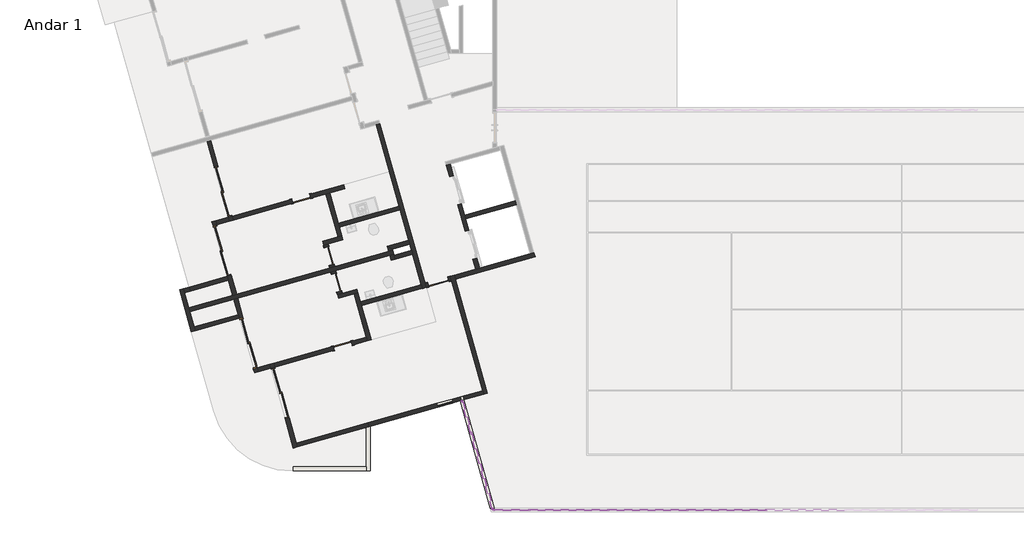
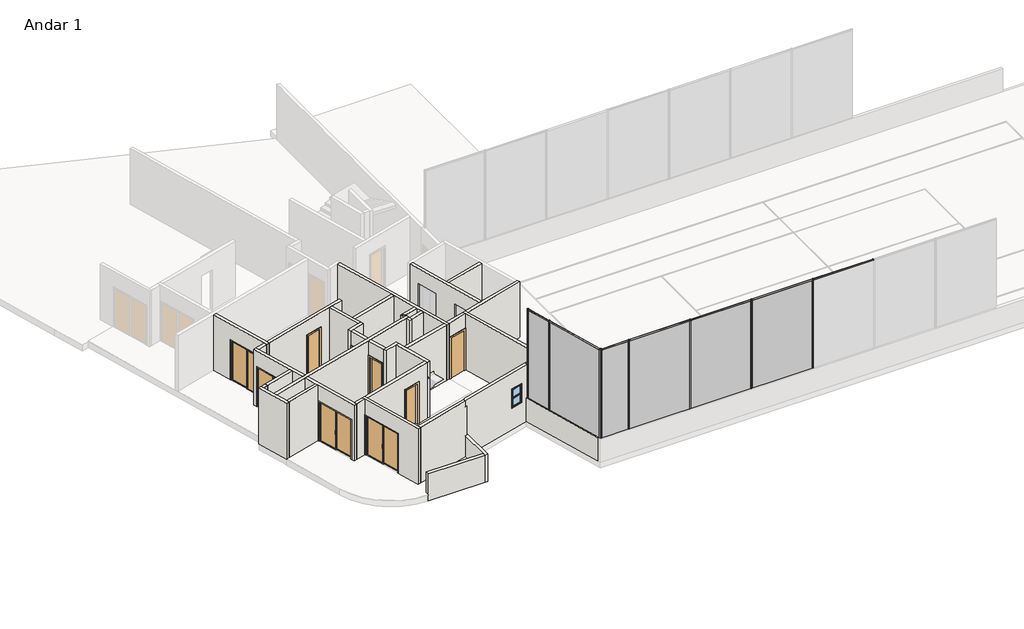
# One storey, part 1 of 4: 37 walls, 15 members, 9 doors, 6 plates, 1 window.
"""IFC4 building model written with IfcOpenShell, lengths in millimetres."""

from ifc_helpers import new_model, si_unit, frame, origin, place, context, project, spatial, polyline, outline, extrude, faceted_brep, transform, mapped, element, save
from components import p2_80cm_9d4be4ef, p3_70cm_ef4d15e3, p3_70cm_0a698c7c, p4_correr_200cm_eaaa0877, p4_correr_200cm_830b8f20, montante_retangular_montante_circular_5ff1fdcf, montante_retangular_montante_circular_86a469dc, montante_retangular_montante_circular_1c767b1c, montante_retangular_montante_circular_b6c632e5, montante_retangular_montante_circular_5da571e1, painel_do_sistema_4e286993, painel_do_sistema_2d010810, painel_do_sistema_5f9e151d, bx_60cm_cef95a5c

model = new_model("IFC4")

# Units and contexts
model_context = context("Model", 3, world=origin())
ifc_project = project(units=[si_unit("LENGTHUNIT", "METRE", prefix="MILLI")], contexts=[model_context])

# Site, building, storey
site = spatial("IfcSite", under=ifc_project)
building = spatial("IfcBuilding", under=site)
storey = spatial("IfcBuildingStorey", under=building, Name="Andar 1", Elevation=53650.0)

# Doors
placement = place(None, origin())
p2_80cm_shape = p2_80cm_9d4be4ef(model_context)
element("IfcDoor", 1, ObjectType="M_Folha única1 : P2 - 80CM", at=placement, inside=storey, context=model_context, shape_type="MappedRepresentation", body=[
    mapped(p2_80cm_shape, transform((-77213.6668366, 12144.847648, 53650.0), x_axis=(0.9623628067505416, 0.2717679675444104, 0.0), y_axis=(-0.2717679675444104, 0.9623628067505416, 0.0), z_axis=(0.0, 0.0, 1.0))),
])
p3_70cm_shape = p3_70cm_ef4d15e3(model_context)
element("IfcDoor", 2, ObjectType="M_Folha única1 : P3 - 70CM", at=placement, inside=storey, context=model_context, shape_type="MappedRepresentation", body=[
    mapped(p3_70cm_shape, transform((-80840.7851368, 9718.5269225, 53650.0), x_axis=(0.9623628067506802, 0.2717679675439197, 0.0), y_axis=(-0.2717679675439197, 0.9623628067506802, 0.0), z_axis=(0.0, 0.0, 1.0))),
])
element("IfcDoor", 3, ObjectType="M_Folha única1 : P3 - 70CM", at=placement, inside=storey, context=model_context, shape_type="MappedRepresentation", body=[
    mapped(p3_70cm_shape, transform((-81362.5862327, 13130.1209218, 53650.0), x_axis=(0.271767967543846, -0.9623628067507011, 0.0), y_axis=(0.9623628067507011, 0.271767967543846, 0.0), z_axis=(0.0, 0.0, 1.0))),
])
p3_70cm_2_shape = p3_70cm_0a698c7c(model_context)
element("IfcDoor", 4, ObjectType="M_Folha única1 : P3 - 70CM", at=placement, inside=storey, context=model_context, shape_type="MappedRepresentation", body=[
    mapped(p3_70cm_2_shape, transform((-81077.2298668, 12119.6399747, 53650.0), x_axis=(-0.27176796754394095, 0.9623628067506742, 0.0), y_axis=(-0.9623628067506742, -0.27176796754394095, 0.0), z_axis=(0.0, 0.0, 1.0))),
])
element("IfcDoor", 5, ObjectType="M_Folha única1 : P3 - 70CM", at=placement, inside=storey, context=model_context, shape_type="MappedRepresentation", body=[
    mapped(p3_70cm_2_shape, transform((-82417.0393485, 15300.2312016, 53650.0), x_axis=(0.9623628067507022, 0.27176796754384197, 0.0), y_axis=(-0.27176796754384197, 0.9623628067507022, 0.0), z_axis=(0.0, 0.0, 1.0))),
])
p4_correr_200cm_shape = p4_correr_200cm_eaaa0877(model_context)
element("IfcDoor", 6, ObjectType="Porta de correr dupla envidraçada sem revestimento : P4 - CORRER - 200CM", at=placement, inside=storey, context=model_context, shape_type="MappedRepresentation", body=[
    mapped(p4_correr_200cm_shape, transform((-84429.028315, 9822.2616509, 53650.0), x_axis=(-0.27176796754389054, 0.9623628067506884, 0.0), y_axis=(-0.9623628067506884, -0.27176796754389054, 0.0), z_axis=(0.0, 0.0, 1.0))),
])
element("IfcDoor", 7, ObjectType="Porta de correr dupla envidraçada sem revestimento : P4 - CORRER - 200CM", at=placement, inside=storey, context=model_context, shape_type="MappedRepresentation", body=[
    mapped(p4_correr_200cm_shape, transform((-83223.012588, 7928.7516937, 53650.0), x_axis=(-0.2717679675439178, 0.9623628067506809, 0.0), y_axis=(-0.9623628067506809, -0.2717679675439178, 0.0), z_axis=(0.0, 0.0, 1.0))),
])
p4_correr_200cm_2_shape = p4_correr_200cm_830b8f20(model_context)
element("IfcDoor", 8, ObjectType="Porta de correr dupla envidraçada sem revestimento : P4 - CORRER - 200CM", at=placement, inside=storey, context=model_context, shape_type="MappedRepresentation", body=[
    mapped(p4_correr_200cm_2_shape, transform((-85383.5679299, 15579.5360073, 53650.0), x_axis=(-0.2717679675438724, 0.9623628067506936, 0.0), y_axis=(-0.9623628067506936, -0.2717679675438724, 0.0), z_axis=(0.0, 0.0, 1.0))),
])
element("IfcDoor", 9, ObjectType="Porta de correr dupla envidraçada sem revestimento : P4 - CORRER - 200CM", at=placement, inside=storey, context=model_context, shape_type="MappedRepresentation", body=[
    mapped(p4_correr_200cm_2_shape, transform((-85420.9813965, 13334.8858955, 53650.0), x_axis=(-0.27176796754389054, 0.9623628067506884, 0.0), y_axis=(-0.9623628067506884, -0.27176796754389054, 0.0), z_axis=(0.0, 0.0, 1.0))),
])

# Members
montante_retangular_montante_circular_shape = montante_retangular_montante_circular_5ff1fdcf(model_context)
element("IfcMember", 10, ObjectType="Montante retangular : Montante Circular", at=placement, inside=storey, context=model_context, shape_type="MappedRepresentation", body=[
    mapped(montante_retangular_montante_circular_shape, transform((-64731.6124052, 3486.0495751, 59450.0), x_axis=(0.0, 0.0, 1.0), y_axis=(0.0, 1.0, 0.0), z_axis=(-1.0, 0.0, 0.0))),
])
element("IfcMember", 11, ObjectType="Montante retangular : Montante Circular", at=placement, inside=storey, context=model_context, shape_type="MappedRepresentation", body=[
    mapped(montante_retangular_montante_circular_shape, transform((-67731.6124052, 3486.0495751, 59450.0), x_axis=(0.0, 0.0, 1.0), y_axis=(0.0, 1.0, 0.0), z_axis=(-1.0, 0.0, 0.0))),
])
element("IfcMember", 12, ObjectType="Montante retangular : Montante Circular", at=placement, inside=storey, context=model_context, shape_type="MappedRepresentation", body=[
    mapped(montante_retangular_montante_circular_shape, transform((-70731.6124052, 3486.0495751, 59450.0), x_axis=(0.0, 0.0, 1.0), y_axis=(0.0, 1.0, 0.0), z_axis=(-1.0, 0.0, 0.0))),
])
element("IfcMember", 13, ObjectType="Montante retangular : Montante Circular", at=placement, inside=storey, context=model_context, shape_type="MappedRepresentation", body=[
    mapped(montante_retangular_montante_circular_shape, transform((-73731.6124052, 3486.0495751, 59450.0), x_axis=(0.0, 0.0, 1.0), y_axis=(0.0, 1.0, 0.0), z_axis=(-1.0, 0.0, 0.0))),
])
element("IfcMember", 14, ObjectType="Montante retangular : Montante Circular", at=placement, inside=storey, context=model_context, shape_type="MappedRepresentation", body=[
    mapped(montante_retangular_montante_circular_shape, transform((-75954.2117936, 6373.1379956, 59450.0), x_axis=(0.0, 0.0, 1.0), y_axis=(0.9623628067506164, 0.2717679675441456, 0.0), z_axis=(-0.2717679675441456, 0.9623628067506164, 0.0))),
])
montante_retangular_montante_circular_2_shape = montante_retangular_montante_circular_86a469dc(model_context)
element("IfcMember", 15, ObjectType="Montante retangular : Montante Circular", at=placement, inside=storey, context=model_context, shape_type="MappedRepresentation", body=[
    mapped(montante_retangular_montante_circular_2_shape, transform((-64761.6124052, 3486.0495751, 54850.0), x_axis=(-1.0, 0.0, 0.0), y_axis=(0.0, 1.0, 0.0), z_axis=(0.0, 0.0, -1.0))),
])
element("IfcMember", 16, ObjectType="Montante retangular : Montante Circular", at=placement, inside=storey, context=model_context, shape_type="MappedRepresentation", body=[
    mapped(montante_retangular_montante_circular_2_shape, transform((-67761.6124052, 3486.0495751, 54850.0), x_axis=(-1.0, 0.0, 0.0), y_axis=(0.0, 1.0, 0.0), z_axis=(0.0, 0.0, -1.0))),
])
element("IfcMember", 17, ObjectType="Montante retangular : Montante Circular", at=placement, inside=storey, context=model_context, shape_type="MappedRepresentation", body=[
    mapped(montante_retangular_montante_circular_2_shape, transform((-70761.6124052, 3486.0495751, 54850.0), x_axis=(-1.0, 0.0, 0.0), y_axis=(0.0, 1.0, 0.0), z_axis=(0.0, 0.0, -1.0))),
])
element("IfcMember", 18, ObjectType="Montante retangular : Montante Circular", at=placement, inside=storey, context=model_context, shape_type="MappedRepresentation", body=[
    mapped(montante_retangular_montante_circular_2_shape, transform((-73761.6124052, 3486.0495751, 54850.0), x_axis=(-1.0, 0.0, 0.0), y_axis=(0.0, 1.0, 0.0), z_axis=(0.0, 0.0, -1.0))),
])
element("IfcMember", 19, ObjectType="Montante retangular : Montante Circular", at=placement, inside=storey, context=model_context, shape_type="MappedRepresentation", body=[
    mapped(montante_retangular_montante_circular_2_shape, transform((-75962.3648326, 6402.0088798, 54850.0), x_axis=(-0.27176796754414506, 0.9623628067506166, 0.0), y_axis=(0.9623628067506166, 0.27176796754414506, 0.0), z_axis=(0.0, 0.0, -1.0))),
])
montante_retangular_montante_circular_3_shape = montante_retangular_montante_circular_1c767b1c(model_context)
element("IfcMember", 20, ObjectType="Montante retangular : Montante Circular", at=placement, inside=storey, context=model_context, shape_type="MappedRepresentation", body=[
    mapped(montante_retangular_montante_circular_3_shape, transform((-75078.9078909, 3486.0495751, 59450.0), x_axis=(0.0, 0.0, 1.0), y_axis=(0.0, 1.0, 0.0), z_axis=(-1.0, 0.0, 0.0))),
])
montante_retangular_montante_circular_4_shape = montante_retangular_montante_circular_b6c632e5(model_context)
element("IfcMember", 21, ObjectType="Montante retangular : Montante Circular", at=placement, inside=storey, context=model_context, shape_type="MappedRepresentation", body=[
    mapped(montante_retangular_montante_circular_4_shape, transform((-76297.3166738, 7588.1133239, 59450.0), x_axis=(0.0, 0.0, 1.0), y_axis=(0.9623628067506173, 0.2717679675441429, 0.0), z_axis=(-0.2717679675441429, 0.9623628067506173, 0.0))),
])
montante_retangular_montante_circular_5_shape = montante_retangular_montante_circular_5da571e1(model_context)
element("IfcMember", 22, ObjectType="Montante retangular : Montante Circular", at=placement, inside=storey, context=model_context, shape_type="MappedRepresentation", body=[
    mapped(montante_retangular_montante_circular_5_shape, transform((-75138.9078909, 3486.0495751, 54850.0), x_axis=(-1.0, 0.0, 0.0), y_axis=(0.0, 1.0, 0.0), z_axis=(0.0, 0.0, -1.0))),
])
element("IfcMember", 23, ObjectType="Montante retangular : Montante Circular", at=placement, inside=storey, context=model_context, shape_type="MappedRepresentation", body=[
    mapped(montante_retangular_montante_circular_5_shape, transform((-76313.6227519, 7645.8550923, 54850.0), x_axis=(-0.27176796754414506, 0.9623628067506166, 0.0), y_axis=(0.9623628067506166, 0.27176796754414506, 0.0), z_axis=(0.0, 0.0, -1.0))),
])
element("IfcMember", 24, ObjectType="Montante retangular : Montante Circular", at=placement, inside=storey, context=model_context, shape_type="MappedRepresentation", body=[
    mapped(montante_retangular_montante_circular_5_shape, transform((-75138.9078909, 3486.0495751, 59450.0), x_axis=(0.27176796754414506, -0.9623628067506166, 0.0), y_axis=(0.9623628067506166, 0.27176796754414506, 0.0), z_axis=(0.0, 0.0, 1.0))),
])

# Plates
painel_do_sistema_shape = painel_do_sistema_4e286993(model_context)
element("IfcPlate", 25, ObjectType="Painel do sistema : Gradil Alambrado", at=placement, inside=storey, context=model_context, shape_type="MappedRepresentation", body=[
    mapped(painel_do_sistema_shape, transform((-66261.6124052, 3486.0495751, 54850.0), x_axis=(-1.0, 0.0, 0.0), y_axis=(0.0, -1.0, 0.0), z_axis=(0.0, 0.0, 1.0))),
])
element("IfcPlate", 26, ObjectType="Painel do sistema : Gradil Alambrado", at=placement, inside=storey, context=model_context, shape_type="MappedRepresentation", body=[
    mapped(painel_do_sistema_shape, transform((-69261.6124052, 3486.0495751, 54850.0), x_axis=(-1.0, 0.0, 0.0), y_axis=(0.0, -1.0, 0.0), z_axis=(0.0, 0.0, 1.0))),
])
element("IfcPlate", 27, ObjectType="Painel do sistema : Gradil Alambrado", at=placement, inside=storey, context=model_context, shape_type="MappedRepresentation", body=[
    mapped(painel_do_sistema_shape, transform((-72261.6124052, 3486.0495751, 54850.0), x_axis=(-1.0, 0.0, 0.0), y_axis=(0.0, -1.0, 0.0), z_axis=(0.0, 0.0, 1.0))),
])
element("IfcPlate", 28, ObjectType="Painel do sistema : Gradil Alambrado", at=placement, inside=storey, context=model_context, shape_type="MappedRepresentation", body=[
    mapped(painel_do_sistema_shape, transform((-75554.7128812, 4958.4646696, 54850.0), x_axis=(-0.27176796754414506, 0.9623628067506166, 0.0), y_axis=(-0.9623628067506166, -0.27176796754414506, 0.0), z_axis=(0.0, 0.0, 1.0))),
])
painel_do_sistema_2_shape = painel_do_sistema_2d010810(model_context)
element("IfcPlate", 29, ObjectType="Painel do sistema : Gradil Alambrado", at=placement, inside=storey, context=model_context, shape_type="MappedRepresentation", body=[
    mapped(painel_do_sistema_2_shape, transform((-74435.260148, 3486.0495751, 54850.0), x_axis=(-1.0, 0.0, 0.0), y_axis=(0.0, -1.0, 0.0), z_axis=(0.0, 0.0, 1.0))),
])
painel_do_sistema_3_shape = painel_do_sistema_5f9e151d(model_context)
element("IfcPlate", 30, ObjectType="Painel do sistema : Gradil Alambrado", at=placement, inside=storey, context=model_context, shape_type="MappedRepresentation", body=[
    mapped(painel_do_sistema_3_shape, transform((-76133.9172727, 7009.496544, 54850.0), x_axis=(-0.27176796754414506, 0.9623628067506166, 0.0), y_axis=(-0.9623628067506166, -0.27176796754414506, 0.0), z_axis=(0.0, 0.0, 1.0))),
])

# Walls
element("IfcWall", 31, ObjectType="Básica .15 -  Interna", at=placement, inside=storey, context=model_context, shape_type="Brep", body=[
    faceted_brep([(-75344.9919691, 7919.3931149, 53650.0), (-76567.7484146, 12249.3196164, 53650.0), (-76608.5136097, 12393.6740374, 53650.0), (-76608.5136097, 12393.6740374, 56550.0), (-76567.7484146, 12249.3196164, 56550.0), (-75344.9919691, 7919.3931149, 56550.0), (-75489.3463901, 7878.6279198, 53650.0), (-75489.3463901, 7878.6279198, 56550.0), (-75530.1115852, 8022.9823408, 56550.0), (-76712.1028356, 12208.5544213, 56550.0), (-76752.8680308, 12352.9088423, 56550.0), (-76752.8680308, 12352.9088423, 53650.0), (-76712.1028356, 12208.5544213, 53650.0), (-75530.1115852, 8022.9823408, 53650.0)], [[[0, 1, 2, 3, 4, 5]], [[6, 7, 8, 9, 10, 11, 12, 13]], [[2, 1, 0, 6, 13, 12, 11]], [[5, 4, 3, 10, 9, 8, 7]], [[0, 5, 7, 6]], [[3, 2, 11, 10]]]),
])
element("IfcWall", 32, ObjectType="Básica .15 -  Interna", at=placement, inside=storey, context=model_context, shape_type="Brep", body=[
    faceted_brep([(-79571.9228624, 18103.967491, 53650.0), (-78702.2653663, 15024.4065094, 53650.0), (-78661.5001712, 14880.0520884, 53650.0), (-78335.3786101, 13725.2167203, 53650.0), (-78294.613415, 13580.8622993, 53650.0), (-78226.6714231, 13340.2715976, 53650.0), (-78185.906228, 13195.9171766, 53650.0), (-77818.8200634, 11896.0212586, 53650.0), (-77818.8200634, 11896.0212586, 56550.0), (-78185.906228, 13195.9171766, 56550.0), (-78226.6714231, 13340.2715976, 56550.0), (-78294.613415, 13580.8622993, 56550.0), (-78335.3786101, 13725.2167203, 56550.0), (-78661.5001712, 14880.0520884, 56550.0), (-78702.2653663, 15024.4065094, 56550.0), (-79571.9228624, 18103.967491, 56550.0), (-79427.5684414, 18144.7326862, 53650.0), (-79427.5684414, 18144.7326862, 56550.0), (-77715.2308375, 12081.1408747, 56550.0), (-77674.4656424, 11936.7864537, 56550.0), (-77674.4656424, 11936.7864537, 53650.0), (-77715.2308375, 12081.1408747, 53650.0)], [[[0, 1, 2, 3, 4, 5, 6, 7, 8, 9, 10, 11, 12, 13, 14, 15]], [[16, 17, 18, 19, 20, 21]], [[7, 6, 5, 4, 3, 2, 1, 0, 16, 21, 20]], [[15, 14, 13, 12, 11, 10, 9, 8, 19, 18, 17]], [[0, 15, 17, 16]], [[8, 7, 20, 19]]]),
])
element("IfcWall", 33, ObjectType="Básica .15 -  Interna", at=placement, inside=storey, context=model_context, shape_type="Brep", body=[
    faceted_brep([(-85017.5646639, 11630.3683862, 56550.0), (-85180.6254444, 12207.7860702, 56550.0), (-85221.3906395, 12352.1404912, 56550.0), (-85805.6917697, 14421.2205257, 56550.0), (-85805.6917697, 14421.2205257, 53650.0), (-85764.9265746, 14276.8661047, 53650.0), (-85764.9265746, 14276.8661047, 55750.0), (-85221.3906395, 12352.1404912, 55750.0), (-85221.3906395, 12352.1404912, 53650.0), (-85180.6254444, 12207.7860702, 53650.0), (-85017.5646639, 11630.3683862, 53650.0), (-85661.3373487, 14461.9857209, 56550.0), (-85620.5721536, 14317.6312998, 56550.0), (-84873.2102428, 11671.1335813, 56550.0), (-84873.2102428, 11671.1335813, 53650.0), (-85077.0362185, 12392.9056863, 53650.0), (-85077.0362185, 12392.9056863, 55750.0), (-85620.5721536, 14317.6312998, 55750.0), (-85620.5721536, 14317.6312998, 53650.0), (-85661.3373487, 14461.9857209, 53650.0)], [[[0, 1, 2, 3, 4, 5, 6, 7, 8, 9, 10]], [[11, 12, 13, 14, 15, 16, 17, 18, 19]], [[4, 19, 18, 5]], [[14, 10, 9, 8, 15]], [[3, 2, 1, 0, 13, 12, 11]], [[4, 3, 11, 19]], [[0, 10, 14, 13]], [[17, 6, 5, 18]], [[6, 17, 16, 7]], [[7, 16, 15, 8]]]),
])
element("IfcWall", 34, ObjectType="Básica .15 -  Interna", at=placement, inside=storey, context=model_context, shape_type="Brep", body=[
    faceted_brep([(-82710.8886682, 5839.2890616, 56550.0), (-83566.957766, 8870.7319029, 56550.0), (-83607.7229611, 9015.0863239, 56550.0), (-83607.7229611, 9015.0863239, 53650.0), (-83566.957766, 8870.7319029, 53650.0), (-83566.957766, 8870.7319029, 55750.0), (-83023.4218309, 6946.0062894, 55750.0), (-83023.4218309, 6946.0062894, 53650.0), (-82710.8886682, 5839.2890616, 53650.0), (-83463.3685401, 9055.851519, 56550.0), (-83422.603345, 8911.497098, 56550.0), (-82607.2994424, 6024.4086777, 56550.0), (-82566.5342472, 5880.0542567, 56550.0), (-82566.5342472, 5880.0542567, 53650.0), (-82607.2994424, 6024.4086777, 53650.0), (-82879.0674099, 6986.7714845, 53650.0), (-82879.0674099, 6986.7714845, 55750.0), (-83422.603345, 8911.497098, 55750.0), (-83422.603345, 8911.497098, 53650.0), (-83463.3685401, 9055.851519, 53650.0)], [[[0, 1, 2, 3, 4, 5, 6, 7, 8]], [[9, 10, 11, 12, 13, 14, 15, 16, 17, 18, 19]], [[3, 19, 18, 4]], [[13, 8, 7, 15, 14]], [[2, 1, 0, 12, 11, 10, 9]], [[3, 2, 9, 19]], [[0, 8, 13, 12]], [[17, 5, 4, 18]], [[5, 17, 16, 6]], [[6, 16, 15, 7]]]),
])
element("IfcWall", 35, ObjectType="Básica .15 - Externa", at=placement, inside=storey, context=model_context, shape_type="Brep", body=[
    faceted_brep([(-79945.4990038, 6620.2256515, 54750.0), (-79945.4990038, 6620.2256515, 53650.0), (-79945.4990038, 6620.2256515, 53350.0), (-79945.4990038, 5119.4122055, 53350.0), (-79945.4990038, 4969.4122055, 53350.0), (-79945.4990038, 4969.4122055, 54750.0), (-79945.4990038, 5119.4122055, 54750.0), (-79795.4990038, 6662.5851389, 53350.0), (-79795.4990038, 6662.5851389, 54750.0), (-79795.4990038, 4969.4122055, 54750.0), (-79795.4990038, 4969.4122055, 53350.0), (-79850.1164062, 6647.1613711, 53350.0)], [[[0, 1, 2, 3, 4, 5, 6]], [[7, 8, 9, 10]], [[4, 3, 2, 11, 7, 10]], [[0, 6, 5, 9, 8]], [[5, 4, 10, 9]], [[0, 8, 7, 11, 2, 1]]]),
])
element("IfcWall", 36, ObjectType="Básica .15 - Externa", at=placement, inside=storey, context=model_context, shape_type="SweptSolid", body=[
    extrude(outline(polyline([(-82713.5540687, 5119.4122055), (-79945.4990038, 5119.4122055), (-79945.4990038, 4969.4122055), (-82713.5540687, 4969.4122055), (-82713.5540687, 5119.4122055)])), frame((0.0, 0.0, 53350.0), z_axis=(0.0, 0.0, 1.0), x_axis=(1.0, 0.0, 0.0)), (0.0, 0.0, 1.0), 1400.0),
])
element("IfcWall", 37, ObjectType="Básica .15 -  Interna", at=placement, inside=storey, context=model_context, shape_type="Brep", body=[
    faceted_brep([(-73581.8825825, 13248.3842954, 53650.0), (-73726.2370035, 13207.6191002, 53650.0), (-75646.150803, 12665.442005, 53650.0), (-75790.505224, 12624.6768098, 53650.0), (-76608.5136097, 12393.6740374, 53650.0), (-76608.5136097, 12393.6740374, 56550.0), (-75790.505224, 12624.6768098, 56550.0), (-75646.150803, 12665.442005, 56550.0), (-73726.2370035, 13207.6191002, 56550.0), (-73581.8825825, 13248.3842954, 56550.0), (-73541.1173874, 13104.0298743, 53650.0), (-73541.1173874, 13104.0298743, 56550.0), (-76567.7484146, 12249.3196164, 56550.0), (-76567.7484146, 12249.3196164, 53650.0)], [[[0, 1, 2, 3, 4, 5, 6, 7, 8, 9]], [[10, 11, 12, 13]], [[4, 3, 2, 1, 0, 10, 13]], [[9, 8, 7, 6, 5, 12, 11]], [[0, 9, 11, 10]], [[5, 4, 13, 12]]]),
])
element("IfcWall", 38, ObjectType="Básica .15 -  Interna", at=placement, inside=storey, context=model_context, shape_type="Brep", body=[
    faceted_brep([(-76483.167581, 15077.4768805, 53650.0), (-76197.8112151, 14066.9959334, 53650.0), (-76197.8112151, 14066.9959334, 55775.0), (-75898.8664508, 13008.396846, 55775.0), (-75898.8664508, 13008.396846, 53650.0), (-75790.505224, 12624.6768098, 53650.0), (-75790.505224, 12624.6768098, 56550.0), (-76904.7538909, 16570.3643175, 56550.0), (-76904.7538909, 16570.3643175, 53650.0), (-76782.1123453, 16136.075968, 53650.0), (-76782.1123453, 16136.075968, 55775.0), (-76483.167581, 15077.4768805, 55775.0), (-76053.4567941, 14107.7611286, 55775.0), (-76053.4567941, 14107.7611286, 53650.0), (-76176.0983397, 14542.0494781, 53650.0), (-76216.8635348, 14686.4038991, 53650.0), (-76338.81316, 15118.2420757, 53650.0), (-76338.81316, 15118.2420757, 55775.0), (-76637.7579243, 16176.8411631, 55775.0), (-76637.7579243, 16176.8411631, 53650.0), (-76760.3994699, 16611.1295126, 53650.0), (-76760.3994699, 16611.1295126, 56550.0), (-76216.8635348, 14686.4038991, 56550.0), (-76176.0983397, 14542.0494781, 56550.0), (-75646.150803, 12665.442005, 56550.0), (-75646.150803, 12665.442005, 53650.0), (-75754.5120298, 13049.1620412, 53650.0), (-75754.5120298, 13049.1620412, 55775.0)], [[[0, 1, 2, 3, 4, 5, 6, 7, 8, 9, 10, 11]], [[12, 13, 14, 15, 16, 17, 18, 19, 20, 21, 22, 23, 24, 25, 26, 27]], [[9, 8, 20, 19]], [[26, 25, 5, 4]], [[16, 15, 14, 13, 1, 0]], [[7, 6, 24, 23, 22, 21]], [[8, 7, 21, 20]], [[6, 5, 25, 24]], [[4, 3, 27, 26]], [[2, 1, 13, 12]], [[3, 2, 12, 27]], [[19, 18, 10, 9]], [[17, 16, 0, 11]], [[18, 17, 11, 10]]]),
])
element("IfcWall", 39, ObjectType="Básica .15 -  Interna", at=placement, inside=storey, context=model_context, shape_type="SweptSolid", body=[
    extrude(outline(polyline([(-74256.1845402, 15084.2265734), (-76176.0983397, 14542.0494781), (-76216.8635348, 14686.4038991), (-74296.9497354, 15228.5809944), (-74256.1845402, 15084.2265734)])), frame((0.0, 0.0, 53650.0), z_axis=(0.0, 0.0, 1.0), x_axis=(1.0, 0.0, 0.0)), (0.0, 0.0, 1.0), 2900.0),
])
element("IfcWall", 40, ObjectType="Básica .15 -  Interna", at=placement, inside=storey, context=model_context, shape_type="Brep", body=[
    faceted_brep([(-82566.5342472, 5880.0542567, 53650.0), (-79945.4990038, 6620.2256515, 53650.0), (-79850.1164062, 6647.1613711, 53650.0), (-79850.1164062, 6647.1613711, 56250.0), (-79945.4990038, 6620.2256515, 56250.0), (-79945.4990038, 6620.2256515, 56550.0), (-82566.5342472, 5880.0542567, 56550.0), (-82607.2994424, 6024.4086777, 53650.0), (-82607.2994424, 6024.4086777, 56550.0), (-79945.4990038, 6776.0920243, 56550.0), (-79945.4990038, 6776.0920243, 56250.0), (-79890.8816014, 6791.5157921, 56250.0), (-79890.8816014, 6791.5157921, 53650.0), (-79945.4990038, 6776.0920243, 53650.0)], [[[0, 1, 2, 3, 4, 5, 6]], [[7, 8, 9, 10, 11, 12, 13]], [[2, 1, 0, 7, 13, 12]], [[6, 5, 9, 8]], [[0, 6, 8, 7]], [[2, 12, 11, 3]], [[10, 4, 3, 11]], [[5, 4, 10, 9]]]),
])
element("IfcWall", 41, ObjectType="Básica .15 -  Interna", at=placement, inside=storey, context=model_context, shape_type="Brep", body=[
    faceted_brep([(-85221.3906395, 12352.1404912, 53650.0), (-86668.7560772, 11943.4094383, 53650.0), (-86668.7560772, 11943.4094383, 56550.0), (-85221.3906395, 12352.1404912, 56550.0), (-85221.3906395, 12352.1404912, 55750.0), (-85180.6254444, 12207.7860702, 53650.0), (-85180.6254444, 12207.7860702, 56550.0), (-86627.9908821, 11799.0550173, 56550.0), (-86627.9908821, 11799.0550173, 53650.0)], [[[0, 1, 2, 3, 4]], [[5, 6, 7, 8]], [[1, 0, 5, 8]], [[2, 1, 8, 7]], [[3, 2, 7, 6]], [[0, 4, 3, 6, 5]]]),
])
element("IfcWall", 42, ObjectType="Básica .15 - Externa", at=placement, inside=storey, context=model_context, shape_type="Brep", body=[
    faceted_brep([(-86444.4738537, 10292.215871, 53650.0), (-86485.2390488, 10436.570292, 53650.0), (-86648.2998293, 11013.987976, 53650.0), (-86689.0650245, 11158.342397, 53650.0), (-86852.125805, 11735.7600811, 53650.0), (-86892.8910001, 11880.1145021, 53650.0), (-86892.8910001, 11880.1145021, 56550.0), (-86852.125805, 11735.7600811, 56550.0), (-86689.0650245, 11158.342397, 56550.0), (-86648.2998293, 11013.987976, 56550.0), (-86485.2390488, 10436.570292, 56550.0), (-86444.4738537, 10292.215871, 56550.0), (-86588.8282747, 10251.4506758, 53650.0), (-86588.8282747, 10251.4506758, 56550.0), (-87037.2454211, 11839.349307, 56550.0), (-87037.2454211, 11839.349307, 53650.0)], [[[0, 1, 2, 3, 4, 5, 6, 7, 8, 9, 10, 11]], [[12, 13, 14, 15]], [[5, 4, 3, 2, 1, 0, 12, 15]], [[11, 10, 9, 8, 7, 6, 14, 13]], [[6, 5, 15, 14]], [[0, 11, 13, 12]]]),
])
element("IfcWall", 43, ObjectType="Básica .15 -  Interna", at=placement, inside=storey, context=model_context, shape_type="Brep", body=[
    faceted_brep([(-86444.4738537, 10292.215871, 53650.0), (-84772.9734931, 10764.2418601, 53650.0), (-84772.9734931, 10764.2418601, 55750.0), (-84772.9734931, 10764.2418601, 56550.0), (-86444.4738537, 10292.215871, 56550.0), (-86485.2390488, 10436.570292, 53650.0), (-86485.2390488, 10436.570292, 56550.0), (-84813.7386882, 10908.5962811, 56550.0), (-84813.7386882, 10908.5962811, 53650.0)], [[[0, 1, 2, 3, 4]], [[5, 6, 7, 8]], [[1, 0, 5, 8]], [[4, 3, 7, 6]], [[0, 4, 6, 5]], [[3, 2, 1, 8, 7]]]),
])
element("IfcWall", 44, ObjectType="Básica .15 -  Interna", at=placement, inside=storey, context=model_context, shape_type="Brep", body=[
    faceted_brep([(-83607.7229611, 9015.0863239, 53650.0), (-84085.083137, 8880.2814417, 53650.0), (-84085.083137, 8880.2814417, 55750.0), (-84085.083137, 8880.2814417, 56550.0), (-83607.7229611, 9015.0863239, 56550.0), (-83566.957766, 8870.7319029, 53650.0), (-83566.957766, 8870.7319029, 55750.0), (-83566.957766, 8870.7319029, 56550.0), (-84044.3179418, 8735.9270207, 56550.0), (-84044.3179418, 8735.9270207, 53650.0)], [[[0, 1, 2, 3, 4]], [[5, 6, 7, 8, 9]], [[1, 0, 5, 9]], [[4, 3, 8, 7]], [[3, 2, 1, 9, 8]], [[0, 4, 7, 6, 5]]]),
])
element("IfcWall", 45, ObjectType="Básica .15 -  Interna", at=placement, inside=storey, context=model_context, shape_type="Brep", body=[
    faceted_brep([(-85183.9771729, 14596.790603, 53650.0), (-85661.3373487, 14461.9857209, 53650.0), (-85661.3373487, 14461.9857209, 56550.0), (-85183.9771729, 14596.790603, 56550.0), (-85183.9771729, 14596.790603, 55750.0), (-85143.2119778, 14452.436182, 53650.0), (-85143.2119778, 14452.436182, 56550.0), (-85620.5721536, 14317.6312998, 56550.0), (-85620.5721536, 14317.6312998, 55750.0), (-85620.5721536, 14317.6312998, 53650.0)], [[[0, 1, 2, 3, 4]], [[5, 6, 7, 8, 9]], [[1, 0, 5, 9]], [[3, 2, 7, 6]], [[2, 1, 9, 8, 7]], [[0, 4, 3, 6, 5]]]),
])
element("IfcWall", 46, ObjectType="Básica .15 -  Interna", at=placement, inside=storey, context=model_context, shape_type="Brep", body=[
    faceted_brep([(-85143.2119778, 14452.436182, 56550.0), (-85183.9771729, 14596.790603, 56550.0), (-85992.4868763, 17459.8199531, 56550.0), (-85992.4868763, 17459.8199531, 53650.0), (-85727.513108, 16521.5162165, 53650.0), (-85727.513108, 16521.5162165, 55750.0), (-85183.9771729, 14596.790603, 55750.0), (-85183.9771729, 14596.790603, 53650.0), (-85143.2119778, 14452.436182, 53650.0), (-85848.1324553, 17500.5851482, 56550.0), (-85039.6227519, 14637.5557982, 56550.0), (-84998.8575568, 14493.2013772, 56550.0), (-84998.8575568, 14493.2013772, 53650.0), (-85039.6227519, 14637.5557982, 53650.0), (-85039.6227519, 14637.5557982, 55750.0), (-85583.158687, 16562.2814117, 55750.0), (-85583.158687, 16562.2814117, 53650.0), (-85848.1324553, 17500.5851482, 53650.0)], [[[0, 1, 2, 3, 4, 5, 6, 7, 8]], [[9, 10, 11, 12, 13, 14, 15, 16, 17]], [[3, 17, 16, 4]], [[12, 8, 7, 13]], [[2, 1, 0, 11, 10, 9]], [[3, 2, 9, 17]], [[0, 8, 12, 11]], [[15, 5, 4, 16]], [[5, 15, 14, 6]], [[6, 14, 13, 7]]]),
])
element("IfcWall", 47, ObjectType="Básica .15 -  Interna", at=placement, inside=storey, context=model_context, shape_type="Brep", body=[
    faceted_brep([(-78945.0553533, 13345.2242614, 53650.0), (-81168.1134369, 12717.4402563, 53650.0), (-81312.4678579, 12676.6750612, 53650.0), (-84873.2102428, 11671.1335813, 53650.0), (-85017.5646639, 11630.3683862, 53650.0), (-86689.0650245, 11158.342397, 53650.0), (-86689.0650245, 11158.342397, 56550.0), (-85017.5646639, 11630.3683862, 56550.0), (-84873.2102428, 11671.1335813, 56550.0), (-81312.4678579, 12676.6750612, 56550.0), (-81168.1134369, 12717.4402563, 56550.0), (-78945.0553533, 13345.2242614, 56550.0), (-78904.2901581, 13200.8698403, 53650.0), (-78904.2901581, 13200.8698403, 56550.0), (-81127.3482417, 12573.0858353, 56550.0), (-81271.7026627, 12532.3206402, 56550.0), (-84832.4450477, 11526.7791603, 56550.0), (-84976.7994687, 11486.0139651, 56550.0), (-86648.2998293, 11013.987976, 56550.0), (-86648.2998293, 11013.987976, 53650.0), (-84976.7994687, 11486.0139651, 53650.0), (-84832.4450477, 11526.7791603, 53650.0), (-81271.7026627, 12532.3206402, 53650.0), (-81127.3482417, 12573.0858353, 53650.0)], [[[0, 1, 2, 3, 4, 5, 6, 7, 8, 9, 10, 11]], [[12, 13, 14, 15, 16, 17, 18, 19, 20, 21, 22, 23]], [[5, 4, 3, 2, 1, 0, 12, 23, 22, 21, 20, 19]], [[11, 10, 9, 8, 7, 6, 18, 17, 16, 15, 14, 13]], [[0, 11, 13, 12]], [[6, 5, 19, 18]]]),
])
element("IfcWall", 48, ObjectType="Básica .15 -  Interna", at=placement, inside=storey, context=model_context, shape_type="Brep", body=[
    faceted_brep([(-84188.6723628, 8695.1618256, 56550.0), (-84772.9734931, 10764.2418601, 56550.0), (-84813.7386882, 10908.5962811, 56550.0), (-84976.7994687, 11486.0139651, 56550.0), (-84976.7994687, 11486.0139651, 53650.0), (-84813.7386882, 10908.5962811, 53650.0), (-84772.9734931, 10764.2418601, 53650.0), (-84772.9734931, 10764.2418601, 55750.0), (-84229.437558, 8839.5162466, 55750.0), (-84229.437558, 8839.5162466, 53650.0), (-84188.6723628, 8695.1618256, 53650.0), (-84832.4450477, 11526.7791603, 56550.0), (-84085.083137, 8880.2814417, 56550.0), (-84044.3179418, 8735.9270207, 56550.0), (-84044.3179418, 8735.9270207, 53650.0), (-84085.083137, 8880.2814417, 53650.0), (-84085.083137, 8880.2814417, 55750.0), (-84628.6190721, 10805.0070552, 55750.0), (-84628.6190721, 10805.0070552, 53650.0), (-84832.4450477, 11526.7791603, 53650.0)], [[[0, 1, 2, 3, 4, 5, 6, 7, 8, 9, 10]], [[11, 12, 13, 14, 15, 16, 17, 18, 19]], [[14, 10, 9, 15]], [[4, 19, 18, 6, 5]], [[3, 2, 1, 0, 13, 12, 11]], [[0, 10, 14, 13]], [[4, 3, 11, 19]], [[17, 7, 6, 18]], [[7, 17, 16, 8]], [[8, 16, 15, 9]]]),
])
element("IfcWall", 49, ObjectType="Básica .15 - Externa", at=placement, inside=storey, context=model_context, shape_type="Brep", body=[
    faceted_brep([(-79850.1164062, 6647.1613711, 56250.0), (-79850.1164062, 6647.1613711, 53650.0), (-76385.7999624, 7625.4724948, 53650.0), (-76241.4455414, 7666.2376899, 53650.0), (-76241.4455414, 7666.2376899, 54850.0), (-76313.6227519, 7645.8550923, 54850.0), (-76313.6227519, 7645.8550923, 56550.0), (-79850.1164062, 6647.1613711, 56550.0), (-79945.4990038, 6620.2256515, 56550.0), (-79945.4990038, 6620.2256515, 56250.0), (-76649.6431667, 7550.9640756, 54750.0), (-77227.0608508, 7387.9032951, 54750.0), (-77227.0608508, 7387.9032951, 55750.0), (-76649.6431667, 7550.9640756, 55750.0), (-79890.8816014, 6791.5157921, 53650.0), (-79890.8816014, 6791.5157921, 56250.0), (-79945.4990038, 6776.0920243, 56250.0), (-79945.4990038, 6776.0920243, 56550.0), (-79890.8816014, 6791.5157921, 56550.0), (-76354.387947, 7790.2095134, 56550.0), (-76354.387947, 7790.2095134, 54850.0), (-76282.2107365, 7810.5921109, 54850.0), (-76282.2107365, 7810.5921109, 53650.0), (-76690.4083619, 7695.3184966, 54750.0), (-76690.4083619, 7695.3184966, 55750.0), (-77267.8260459, 7532.2577161, 55750.0), (-77267.8260459, 7532.2577161, 54750.0)], [[[0, 1, 2, 3, 4, 5, 6, 7, 8, 9], [10, 11, 12, 13]], [[14, 15, 16, 17, 18, 19, 20, 21, 22], [23, 24, 25, 26]], [[3, 2, 1, 14, 22]], [[8, 7, 6, 19, 18, 17]], [[23, 26, 11, 10]], [[26, 25, 12, 11]], [[25, 24, 13, 12]], [[24, 23, 10, 13]], [[0, 15, 14, 1]], [[9, 16, 15, 0]], [[9, 8, 17, 16]], [[6, 5, 20, 19]], [[20, 5, 4, 21]], [[4, 3, 22, 21]]]),
])
element("IfcWall", 50, ObjectType="Básica .15 - Externa", at=placement, inside=storey, context=model_context, shape_type="SweptSolid", body=[
    extrude(outline(polyline([(-86892.8910001, 11880.1145021), (-86668.7560772, 11943.4094383), (-86627.9908821, 11799.0550173), (-86852.125805, 11735.7600811), (-86892.8910001, 11880.1145021)])), frame((0.0, 0.0, 53650.0), z_axis=(0.0, 0.0, 1.0), x_axis=(1.0, 0.0, 0.0)), (0.0, 0.0, 1.0), 2900.0),
])
element("IfcWall", 51, ObjectType="Básica .15 -  Interna", at=placement, inside=storey, context=model_context, shape_type="SweptSolid", body=[
    extrude(outline(polyline([(-80169.4554031, 11388.8386864), (-77859.7846669, 12041.0818085), (-77819.0194718, 11896.7273875), (-80128.690208, 11244.4842654), (-80169.4554031, 11388.8386864)])), frame((0.0, 0.0, 53650.0), z_axis=(0.0, 0.0, 1.0), x_axis=(1.0, 0.0, 0.0)), (0.0, 0.0, 1.0), 2900.0),
])
element("IfcWall", 52, ObjectType="Básica .15 -  Interna", at=placement, inside=storey, context=model_context, shape_type="SweptSolid", body=[
    extrude(outline(polyline([(-78185.906228, 13195.9171766), (-78849.9365646, 13008.397279), (-78890.7017597, 13152.7517), (-78226.6714231, 13340.2715976), (-78185.906228, 13195.9171766)])), frame((0.0, 0.0, 53650.0), z_axis=(0.0, 0.0, 1.0), x_axis=(1.0, 0.0, 0.0)), (0.0, 0.0, 1.0), 2900.0),
])
element("IfcWall", 53, ObjectType="Básica .15 -  Interna", at=placement, inside=storey, context=model_context, shape_type="Brep", body=[
    faceted_brep([(-80986.3462968, 11521.8396931, 53650.0), (-80408.9286128, 11684.9004736, 53650.0), (-80264.5741917, 11725.6656688, 53650.0), (-80264.5741917, 11725.6656688, 56550.0), (-80408.9286128, 11684.9004736, 56550.0), (-80986.3462968, 11521.8396931, 56550.0), (-81027.1114919, 11666.1941141, 53650.0), (-81027.1114919, 11666.1941141, 56550.0), (-80882.7570709, 11706.9593092, 56550.0), (-80305.3393869, 11870.0200898, 56550.0), (-80305.3393869, 11870.0200898, 53650.0), (-80882.7570709, 11706.9593092, 53650.0)], [[[0, 1, 2, 3, 4, 5]], [[6, 7, 8, 9, 10, 11]], [[2, 1, 0, 6, 11, 10]], [[5, 4, 3, 9, 8, 7]], [[0, 5, 7, 6]], [[3, 2, 10, 9]]]),
])
element("IfcWall", 54, ObjectType="Básica .15 -  Interna", at=placement, inside=storey, context=model_context, shape_type="SweptSolid", body=[
    extrude(outline(polyline([(900.0, -2900.0), (0.0, -2900.0), (0.0, 0.0), (100.0, 0.0), (100.0, -2100.0), (800.0, -2100.0), (800.0, 0.0), (900.0, 0.0), (900.0, -2900.0)])), frame((-81271.7026627, 12532.3206402, 53650.0), z_axis=(0.9623628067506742, 0.271767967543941, 0.0), x_axis=(0.271767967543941, -0.9623628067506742, 0.0)), (0.0, 0.0, 1.0), 150.0),
])
element("IfcWall", 55, ObjectType="Básica .15 -  Interna", at=placement, inside=storey, context=model_context, shape_type="Brep", body=[
    faceted_brep([(-80408.9286128, 11684.9004736, 53650.0), (-79946.9230679, 10048.8837021, 53650.0), (-79906.1578728, 9904.5292811, 53650.0), (-79906.1578728, 9904.5292811, 56550.0), (-79946.9230679, 10048.8837021, 56550.0), (-80408.9286128, 11684.9004736, 56550.0), (-80264.5741917, 11725.6656688, 53650.0), (-80264.5741917, 11725.6656688, 56550.0), (-80169.4554031, 11388.8386864, 56550.0), (-80128.690208, 11244.4842654, 56550.0), (-79761.8034518, 9945.2944763, 56550.0), (-79761.8034518, 9945.2944763, 53650.0), (-80128.690208, 11244.4842654, 53650.0), (-80169.4554031, 11388.8386864, 53650.0)], [[[0, 1, 2, 3, 4, 5]], [[6, 7, 8, 9, 10, 11, 12, 13]], [[2, 1, 0, 6, 13, 12, 11]], [[5, 4, 3, 10, 9, 8, 7]], [[3, 2, 11, 10]], [[0, 5, 7, 6]]]),
])
element("IfcWall", 56, ObjectType="Básica .15 -  Interna", at=placement, inside=storey, context=model_context, shape_type="Brep", body=[
    faceted_brep([(-79946.9230679, 10048.8837021, 53650.0), (-80524.340752, 9885.8229216, 53650.0), (-80524.340752, 9885.8229216, 55750.0), (-81197.9947167, 9695.5853443, 55750.0), (-81197.9947167, 9695.5853443, 53650.0), (-83463.3685401, 9055.851519, 53650.0), (-83463.3685401, 9055.851519, 56550.0), (-79946.9230679, 10048.8837021, 56550.0), (-80483.5755569, 9741.4685006, 55750.0), (-80483.5755569, 9741.4685006, 53650.0), (-79906.1578728, 9904.5292811, 53650.0), (-79906.1578728, 9904.5292811, 56550.0), (-83422.603345, 8911.497098, 56550.0), (-83422.603345, 8911.497098, 55750.0), (-83422.603345, 8911.497098, 53650.0), (-81157.2295216, 9551.2309233, 53650.0), (-81157.2295216, 9551.2309233, 55750.0)], [[[0, 1, 2, 3, 4, 5, 6, 7]], [[8, 9, 10, 11, 12, 13, 14, 15, 16]], [[15, 14, 5, 4]], [[10, 9, 1, 0]], [[7, 6, 12, 11]], [[2, 1, 9, 8]], [[3, 2, 8, 16]], [[4, 3, 16, 15]], [[0, 7, 11, 10]], [[6, 5, 14, 13, 12]]]),
])
element("IfcWall", 57, ObjectType="Básica .15 -  Interna", at=placement, inside=storey, context=model_context, shape_type="Brep", body=[
    faceted_brep([(-79048.6445791, 13160.1046452, 53650.0), (-78994.2909856, 12967.6320839, 53650.0), (-78994.2909856, 12967.6320839, 56550.0), (-79048.6445791, 13160.1046452, 56550.0), (-78904.2901581, 13200.8698403, 53650.0), (-78904.2901581, 13200.8698403, 56550.0), (-78890.7017597, 13152.7517, 56550.0), (-78849.9365646, 13008.397279, 56550.0), (-78849.9365646, 13008.397279, 53650.0), (-78890.7017597, 13152.7517, 53650.0)], [[[0, 1, 2, 3]], [[4, 5, 6, 7, 8, 9]], [[1, 0, 4, 9, 8]], [[3, 2, 7, 6, 5]], [[0, 3, 5, 4]], [[2, 1, 8, 7]]]),
])
element("IfcWall", 58, ObjectType="Básica .15 -  Interna", at=placement, inside=storey, context=model_context, shape_type="SweptSolid", body=[
    extrude(outline(polyline([(-79143.7633678, 13496.9316276), (-78335.3786101, 13725.2167203), (-78294.613415, 13580.8622993), (-78958.6437516, 13393.3424017), (-79143.7633678, 13496.9316276)])), frame((0.0, 0.0, 53650.0), z_axis=(0.0, 0.0, 1.0), x_axis=(1.0, 0.0, 0.0)), (0.0, 0.0, 1.0), 2900.0),
])
element("IfcWall", 59, ObjectType="Básica .15 -  Interna", at=placement, inside=storey, context=model_context, shape_type="SweptSolid", body=[
    extrude(outline(polyline([(-79089.4097743, 13304.4590662), (-79143.7633678, 13496.9316276), (-78958.6437516, 13393.3424017), (-78945.0553533, 13345.2242614), (-79089.4097743, 13304.4590662)])), frame((0.0, 0.0, 53650.0), z_axis=(0.0, 0.0, 1.0), x_axis=(1.0, 0.0, 0.0)), (0.0, 0.0, 1.0), 2900.0),
])
element("IfcWall", 60, ObjectType="Básica .15 -  Interna", at=placement, inside=storey, context=model_context, shape_type="Brep", body=[
    faceted_brep([(-80876.0521187, 13890.981984, 53650.0), (-81020.4065397, 13850.2167888, 53650.0), (-81597.8242238, 13687.1560083, 53650.0), (-81597.8242238, 13687.1560083, 56550.0), (-81020.4065397, 13850.2167888, 56550.0), (-80876.0521187, 13890.981984, 56550.0), (-80835.2869236, 13746.6275629, 53650.0), (-80835.2869236, 13746.6275629, 56550.0), (-81412.7046076, 13583.5667824, 56550.0), (-81557.0590287, 13542.8015873, 56550.0), (-81557.0590287, 13542.8015873, 53650.0), (-81412.7046076, 13583.5667824, 53650.0)], [[[0, 1, 2, 3, 4, 5]], [[6, 7, 8, 9, 10, 11]], [[2, 1, 0, 6, 11, 10]], [[5, 4, 3, 9, 8, 7]], [[0, 5, 7, 6]], [[3, 2, 10, 9]]]),
])
element("IfcWall", 61, ObjectType="Básica .15 -  Interna", at=placement, inside=storey, context=model_context, shape_type="Brep", body=[
    faceted_brep([(-81482.4120846, 15486.2335603, 53650.0), (-81020.4065397, 13850.2167888, 53650.0), (-81020.4065397, 13850.2167888, 56550.0), (-81482.4120846, 15486.2335603, 56550.0), (-81338.0576635, 15526.9987554, 53650.0), (-81338.0576635, 15526.9987554, 56550.0), (-81011.9361025, 14372.1633873, 56550.0), (-80971.1709074, 14227.8089663, 56550.0), (-80876.0521187, 13890.981984, 56550.0), (-80876.0521187, 13890.981984, 53650.0), (-80971.1709074, 14227.8089663, 53650.0), (-81011.9361025, 14372.1633873, 53650.0)], [[[0, 1, 2, 3]], [[4, 5, 6, 7, 8, 9, 10, 11]], [[1, 0, 4, 11, 10, 9]], [[3, 2, 8, 7, 6, 5]], [[0, 3, 5, 4]], [[2, 1, 9, 8]]]),
])
element("IfcWall", 62, ObjectType="Básica .15 -  Interna", at=placement, inside=storey, context=model_context, shape_type="SweptSolid", body=[
    extrude(outline(polyline([(-81011.9361025, 14372.1633873), (-78702.2653663, 15024.4065094), (-78661.5001712, 14880.0520884), (-80971.1709074, 14227.8089663), (-81011.9361025, 14372.1633873)])), frame((0.0, 0.0, 53650.0), z_axis=(0.0, 0.0, 1.0), x_axis=(1.0, 0.0, 0.0)), (0.0, 0.0, 1.0), 2900.0),
])
element("IfcWall", 63, ObjectType="Básica .15 -  Interna", at=placement, inside=storey, context=model_context, shape_type="Brep", body=[
    faceted_brep([(-80801.4051746, 15834.413957, 53650.0), (-82100.5949637, 15467.5272008, 53650.0), (-82100.5949637, 15467.5272008, 55750.0), (-82774.2489285, 15277.2896235, 55750.0), (-82774.2489285, 15277.2896235, 53650.0), (-85039.6227519, 14637.5557982, 53650.0), (-85039.6227519, 14637.5557982, 55750.0), (-85039.6227519, 14637.5557982, 56550.0), (-80801.4051746, 15834.413957, 56550.0), (-82059.8297686, 15323.1727798, 55750.0), (-82059.8297686, 15323.1727798, 53650.0), (-81482.4120846, 15486.2335603, 53650.0), (-81338.0576635, 15526.9987554, 53650.0), (-80760.6399795, 15690.059536, 53650.0), (-80760.6399795, 15690.059536, 56550.0), (-81338.0576635, 15526.9987554, 56550.0), (-81482.4120846, 15486.2335603, 56550.0), (-84998.8575568, 14493.2013772, 56550.0), (-84998.8575568, 14493.2013772, 53650.0), (-82733.4837333, 15132.9352025, 53650.0), (-82733.4837333, 15132.9352025, 55750.0)], [[[0, 1, 2, 3, 4, 5, 6, 7, 8]], [[9, 10, 11, 12, 13, 14, 15, 16, 17, 18, 19, 20]], [[19, 18, 5, 4]], [[13, 12, 11, 10, 1, 0]], [[8, 7, 17, 16, 15, 14]], [[0, 8, 14, 13]], [[2, 1, 10, 9]], [[3, 2, 9, 20]], [[4, 3, 20, 19]], [[7, 6, 5, 18, 17]]]),
])
element("IfcWall", 64, ObjectType="Básica .15 -  Interna", at=placement, inside=storey, context=model_context, shape_type="SweptSolid", body=[
    extrude(outline(polyline([(-250.0, -2100.0), (-250.0, 0.0), (-150.0, 0.0), (-150.0, -2900.0), (-1050.0, -2900.0), (-1050.0, 0.0), (-950.0, 0.0), (-950.0, -2100.0), (-250.0, -2100.0)])), frame((-81271.7026627, 12532.3206402, 53650.0), z_axis=(0.9623628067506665, 0.2717679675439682, 0.0), x_axis=(0.2717679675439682, -0.9623628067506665, 0.0)), (0.0, 0.0, 1.0), 150.0),
])
element("IfcWall", 65, ObjectType="Básica .15 -  Interna", at=placement, inside=storey, context=model_context, shape_type="SweptSolid", body=[
    extrude(outline(polyline([(-1100.0, -2100.0), (-1100.0, 0.0), (-999.9999999, 0.0), (-999.9999999, -2900.0), (-2000.0, -2900.0), (-2000.0, 0.0), (-1900.0, 0.0), (-1900.0, -2100.0), (-1100.0, -2100.0)])), frame((-75749.7400289, 12480.3223888, 53650.0), z_axis=(-0.2717679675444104, 0.9623628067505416, 0.0), x_axis=(0.9623628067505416, 0.2717679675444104, 0.0)), (0.0, 0.0, 1.0), 150.0),
])
element("IfcWall", 66, ObjectType="Básica .15 - Externa", at=placement, inside=storey, context=model_context, shape_type="Brep", body=[
    faceted_brep([(-75082.1544481, 3561.0495751, 53650.0), (-76241.4455414, 7666.2376899, 53650.0), (-76241.4455414, 7666.2376899, 54850.0), (-75082.1544481, 3561.0495751, 54850.0), (-75238.0208209, 3561.0495751, 53650.0), (-75238.0208209, 3561.0495751, 54850.0), (-76385.7999624, 7625.4724948, 54850.0), (-76385.7999624, 7625.4724948, 53650.0), (-76313.6227519, 7645.8550923, 54850.0)], [[[0, 1, 2, 3]], [[4, 5, 6, 7]], [[1, 0, 4, 7]], [[3, 2, 8, 6, 5]], [[0, 3, 5, 4]], [[2, 1, 7, 6, 8]]]),
])
element("IfcWall", 67, ObjectType="Básica .15 -  Interna", at=placement, inside=storey, context=model_context, shape_type="SweptSolid", body=[
    extrude(outline(polyline([(6711.8969604, 0.0), (7493.4100717, 0.0), (7493.4100717, -2900.0), (6636.8969604, -2900.0), (6636.8969604, -1200.0), (6711.8969604, -1200.0), (6711.8969604, 0.0)])), frame((-82700.7255388, 5842.1590946, 53650.0), z_axis=(-0.27176796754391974, 0.9623628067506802, 0.0), x_axis=(0.9623628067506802, 0.27176796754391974, 0.0)), (0.0, 0.0, 1.0), 150.0),
])

# Window
bx_60cm_shape = bx_60cm_cef95a5c(model_context)
element("IfcWindow", 68, ObjectType="Janela pivotante horizontal - 2 Painéis : BX - 60CM", at=placement, inside=storey, context=model_context, shape_type="MappedRepresentation", body=[
    mapped(bx_60cm_shape, transform((-76958.7346063, 7541.6108959, 54100.0), x_axis=(-0.9623628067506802, -0.27176796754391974, 0.0), y_axis=(0.27176796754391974, -0.9623628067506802, 0.0), z_axis=(0.0, 0.0, 1.0))),
])

save(model, "model.ifc")
